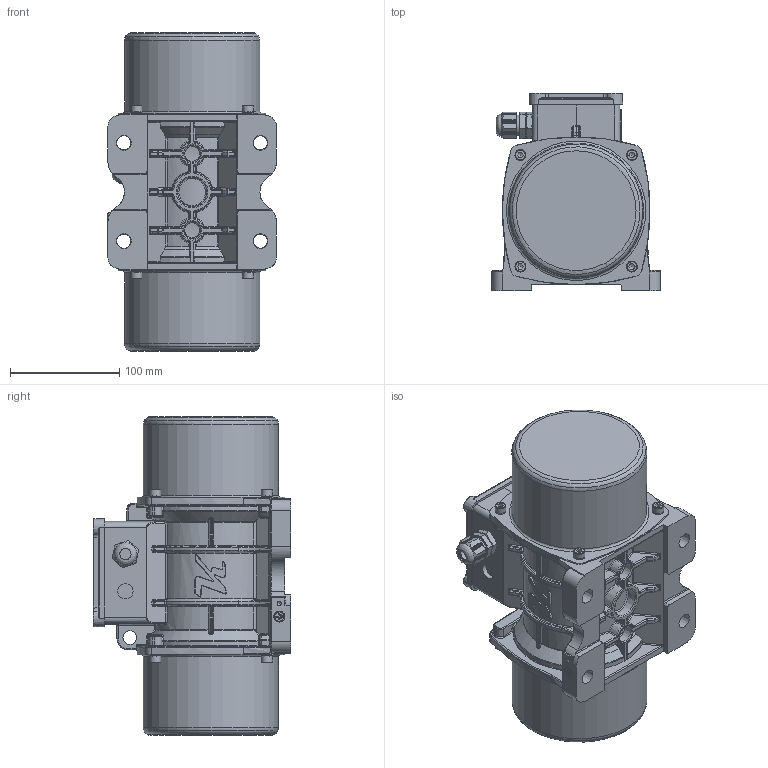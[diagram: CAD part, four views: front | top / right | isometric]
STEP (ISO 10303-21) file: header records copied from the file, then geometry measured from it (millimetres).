
FILE_DESCRIPTION(/* description */ (''),/* implementation_level */ '2;1');
FILE_NAME(/* name */ '2 NO MOTORLAR.stp',/* time_stamp */ '2026-08-31T10:29:53+03:00',/* author */ ('PC'),/* organization */ (''),/* preprocessor_version */ 'ST-DEVELOPER v20.1',/* originating_system */ 'Autodesk Inventor 2026',/* authorisation */ '');
FILE_SCHEMA (('AUTOMOTIVE_DESIGN { 1 0 10303 214 3 1 1 }'));
Products named in the file (1): 2 NO MOTORLAR
Bounding box: 154.3 x 180.88 x 291.4 mm (x, y, z)
Volume: 3837925.4 mm3; surface area: 241832.8 mm2
Topology: 1 solids, 35 shells, 4589 faces, 11725 edges, 7468 vertices
Faces by surface type: plane 2199, bspline 1516, cylinder 518, cone 154, torus 104, sphere 98
Full cylindrical faces by diameter (mm): 4.134 x6, 4.917 x8, 6 x8, 6.4 x8, 6.5 x8, 8.4 x1, 8.5 x4, 10 x9, 10.3 x1, 11 x1, 14 x1, 16 x2, 16.8 x1, 18.376 x1, 18.6 x2, 123.6 x2
Entity records: 200638 total; most frequent: CARTESIAN_POINT 94996, ORIENTED_EDGE 23354, DIRECTION 16375, EDGE_CURVE 11677, VERTEX_POINT 7468, LINE 6779, VECTOR 6779, EDGE_LOOP 4929
